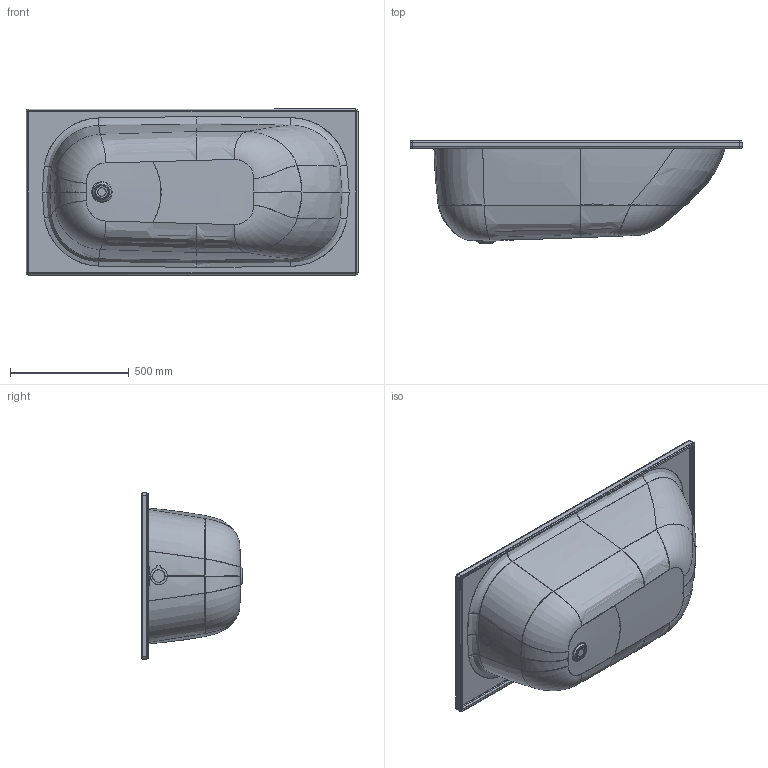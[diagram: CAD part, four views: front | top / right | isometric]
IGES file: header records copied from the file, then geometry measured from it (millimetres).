
Start section: Write IGES format                                    datakit 2008 (c)
Global section: file name: Unknown; native system: DATAKIT Converter; preprocessor: Unknown; author: Unknown; organization: Unknown; date: 950613.180003; units: millimetre
Bounding box: 1400 x 430 x 700 mm (x, y, z)
Surface area: 3839341.6 mm2 (no closed solid volume)
Topology: 0 solids, 0 shells, 171 faces, 1004 edges, 999 vertices
Faces by surface type: bspline 77, revolution 70, offset 24
